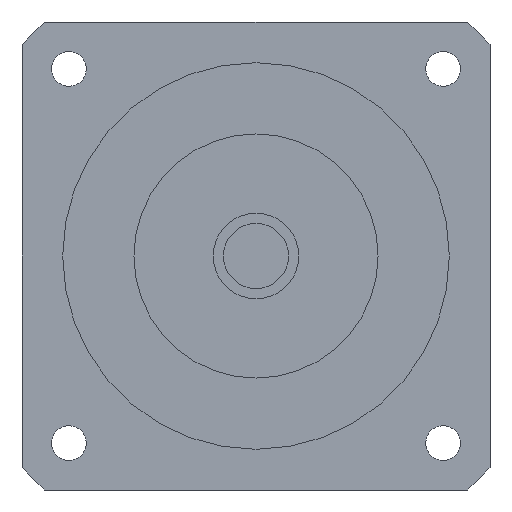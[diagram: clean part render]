
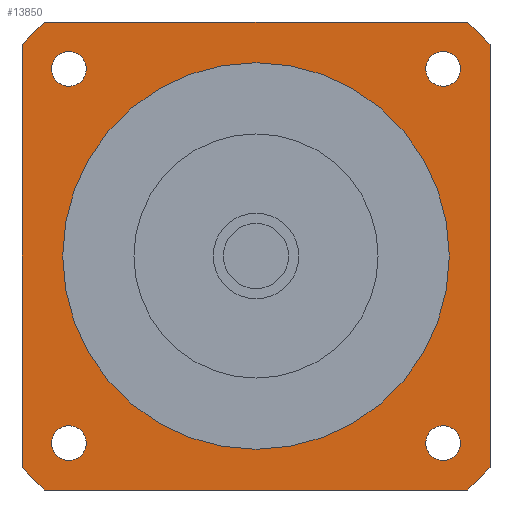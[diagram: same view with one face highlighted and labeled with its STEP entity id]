
A CAD part, left-side view. The second image highlights one B-rep face of the part: STEP entity #13850.
In plain terms, the highlighted planar face has unit normal (-1, 0, 0) as drawn and (0, 0, -1) by its records, which use the part's own axes.
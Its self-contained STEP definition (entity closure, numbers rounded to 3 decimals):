
#11040=CARTESIAN_POINT('',(-51.962,57.5,-47.));
#11050=VERTEX_POINT('',#11040);
#11080=CARTESIAN_POINT('',(-57.5,57.5,-47.));
#11090=DIRECTION('',(1.,0.,0.));
#11100=VECTOR('',#11090,1000.);
#11110=LINE('',#11080,#11100);
#11120=CARTESIAN_POINT('',(51.962,57.5,-47.));
#11130=VERTEX_POINT('',#11120);
#11140=EDGE_CURVE('',#11050,#11130,#11110,.T.);
#11370=CARTESIAN_POINT('',(-57.5,51.962,-47.));
#11380=VERTEX_POINT('',#11370);
#11410=CARTESIAN_POINT('',(0.,0.,-47.
));
#11420=DIRECTION('',(0.,0.,-1.));
#11430=DIRECTION('',(1.,0.,0.));
#11440=AXIS2_PLACEMENT_3D('',#11410,#11420,#11430);
#11450=CIRCLE('',#11440,77.5);
#11460=EDGE_CURVE('',#11380,#11050,#11450,.T.);
#11600=CARTESIAN_POINT('',(-51.962,-57.5,-47.));
#11610=VERTEX_POINT('',#11600);
#11640=CARTESIAN_POINT('',(0.,0.,-47.
));
#11650=DIRECTION('',(0.,0.,-1.));
#11660=DIRECTION('',(1.,0.,0.));
#11670=AXIS2_PLACEMENT_3D('',#11640,#11650,#11660);
#11680=CIRCLE('',#11670,77.5);
#11690=CARTESIAN_POINT('',(-57.5,-51.962,-47.));
#11700=VERTEX_POINT('',#11690);
#11710=EDGE_CURVE('',#11610,#11700,#11680,.T.);
#11920=CARTESIAN_POINT('',(51.962,-57.5,-47.));
#11930=VERTEX_POINT('',#11920);
#11960=CARTESIAN_POINT('',(57.5,-57.5,-47.));
#11970=DIRECTION('',(-1.,0.,0.));
#11980=VECTOR('',#11970,1000.);
#11990=LINE('',#11960,#11980);
#12000=EDGE_CURVE('',#11930,#11610,#11990,.T.);
#12130=CARTESIAN_POINT('',(-57.5,-57.5,-47.));
#12140=DIRECTION('',(0.,1.,0.));
#12150=VECTOR('',#12140,1000.);
#12160=LINE('',#12130,#12150);
#12170=EDGE_CURVE('',#11700,#11380,#12160,.T.);
#12300=CARTESIAN_POINT('',(0.,0.,-47.
));
#12310=DIRECTION('',(0.,0.,-1.));
#12320=DIRECTION('',(1.,0.,0.));
#12330=AXIS2_PLACEMENT_3D('',#12300,#12310,#12320);
#12340=CIRCLE('',#12330,77.5);
#12350=CARTESIAN_POINT('',(57.5,51.962,-47.));
#12360=VERTEX_POINT('',#12350);
#12370=EDGE_CURVE('',#11130,#12360,#12340,.T.);
#12580=CARTESIAN_POINT('',(57.5,-51.962,-47.));
#12590=VERTEX_POINT('',#12580);
#12620=CARTESIAN_POINT('',(0.,0.,-47.
));
#12630=DIRECTION('',(0.,0.,-1.));
#12640=DIRECTION('',(1.,0.,0.));
#12650=AXIS2_PLACEMENT_3D('',#12620,#12630,#12640);
#12660=CIRCLE('',#12650,77.5);
#12670=EDGE_CURVE('',#12590,#11930,#12660,.T.);
#12800=CARTESIAN_POINT('',(57.5,57.5,-47.));
#12810=DIRECTION('',(0.,-1.,0.));
#12820=VECTOR('',#12810,1000.);
#12830=LINE('',#12800,#12820);
#12840=EDGE_CURVE('',#12360,#12590,#12830,.T.);
#12910=CARTESIAN_POINT('',(57.5,57.5,-47.));
#12920=DIRECTION('',(0.,0.,-1.));
#12930=DIRECTION('',(1.,0.,0.));
#12940=AXIS2_PLACEMENT_3D('',#12910,#12920,#12930);
#12950=PLANE('',#12940);
#12960=CARTESIAN_POINT('',(-45.962,-45.962,-47.));
#12970=DIRECTION('',(0.,0.,-1.));
#12980=DIRECTION('',(0.,-1.,0.));
#12990=AXIS2_PLACEMENT_3D('',#12960,#12970,#12980);
#13000=CIRCLE('',#12990,4.25);
#13010=CARTESIAN_POINT('',(-45.962,-50.212,-47.));
#13020=VERTEX_POINT('',#13010);
#13030=CARTESIAN_POINT('',(-45.962,-41.712,-47.));
#13040=VERTEX_POINT('',#13030);
#13050=EDGE_CURVE('',#13020,#13040,#13000,.T.);
#13060=ORIENTED_EDGE('',*,*,#13050,.F.);
#13070=EDGE_CURVE('',#13040,#13020,#13000,.T.);
#13080=ORIENTED_EDGE('',*,*,#13070,.F.);
#13090=EDGE_LOOP('',(#13080,#13060));
#13100=FACE_BOUND('',#13090,.T.);
#13110=CARTESIAN_POINT('',(-45.962,45.962,-47.));
#13120=DIRECTION('',(0.,0.,-1.));
#13130=DIRECTION('',(-1.,0.,0.));
#13140=AXIS2_PLACEMENT_3D('',#13110,#13120,#13130);
#13150=CIRCLE('',#13140,4.25);
#13160=CARTESIAN_POINT('',(-50.212,45.962,-47.));
#13170=VERTEX_POINT('',#13160);
#13180=CARTESIAN_POINT('',(-41.712,45.962,-47.));
#13190=VERTEX_POINT('',#13180);
#13200=EDGE_CURVE('',#13170,#13190,#13150,.T.);
#13210=ORIENTED_EDGE('',*,*,#13200,.F.);
#13220=EDGE_CURVE('',#13190,#13170,#13150,.T.);
#13230=ORIENTED_EDGE('',*,*,#13220,.F.);
#13240=EDGE_LOOP('',(#13230,#13210));
#13250=FACE_BOUND('',#13240,.T.);
#13260=CARTESIAN_POINT('',(45.962,45.962,-47.));
#13270=DIRECTION('',(0.,0.,-1.));
#13280=DIRECTION('',(0.,1.,0.));
#13290=AXIS2_PLACEMENT_3D('',#13260,#13270,#13280);
#13300=CIRCLE('',#13290,4.25);
#13310=CARTESIAN_POINT('',(45.962,50.212,-47.));
#13320=VERTEX_POINT('',#13310);
#13330=CARTESIAN_POINT('',(45.962,41.712,-47.));
#13340=VERTEX_POINT('',#13330);
#13350=EDGE_CURVE('',#13320,#13340,#13300,.T.);
#13360=ORIENTED_EDGE('',*,*,#13350,.F.);
#13370=EDGE_CURVE('',#13340,#13320,#13300,.T.);
#13380=ORIENTED_EDGE('',*,*,#13370,.F.);
#13390=EDGE_LOOP('',(#13380,#13360));
#13400=FACE_BOUND('',#13390,.T.);
#13410=CARTESIAN_POINT('',(0.,0.,
-47.));
#13420=DIRECTION('',(0.,0.,1.));
#13430=DIRECTION('',(0.,1.,0.));
#13440=AXIS2_PLACEMENT_3D('',#13410,#13420,#13430);
#13450=CIRCLE('',#13440,47.5);
#13460=CARTESIAN_POINT('',(-47.5,0.,-47.));
#13470=VERTEX_POINT('',#13460);
#13480=CARTESIAN_POINT('',(47.5,0.,-47.));
#13490=VERTEX_POINT('',#13480);
#13500=EDGE_CURVE('',#13470,#13490,#13450,.T.);
#13510=ORIENTED_EDGE('',*,*,#13500,.T.);
#13520=CARTESIAN_POINT('',(0.,47.5,-47.));
#13530=VERTEX_POINT('',#13520);
#13540=EDGE_CURVE('',#13530,#13470,#13450,.T.);
#13550=ORIENTED_EDGE('',*,*,#13540,.T.);
#13560=EDGE_CURVE('',#13490,#13530,#13450,.T.);
#13570=ORIENTED_EDGE('',*,*,#13560,.T.);
#13580=EDGE_LOOP('',(#13570,#13550,#13510));
#13590=FACE_BOUND('',#13580,.T.);
#13600=ORIENTED_EDGE('',*,*,#11140,.T.);
#13610=ORIENTED_EDGE('',*,*,#11460,.T.);
#13620=ORIENTED_EDGE('',*,*,#12170,.T.);
#13630=ORIENTED_EDGE('',*,*,#11710,.T.);
#13640=ORIENTED_EDGE('',*,*,#12000,.T.);
#13650=ORIENTED_EDGE('',*,*,#12670,.T.);
#13660=ORIENTED_EDGE('',*,*,#12840,.T.);
#13670=ORIENTED_EDGE('',*,*,#12370,.T.);
#13680=EDGE_LOOP('',(#13670,#13660,#13650,#13640,#13630,#13620,#13610,
#13600));
#13690=FACE_OUTER_BOUND('',#13680,.T.);
#13700=CARTESIAN_POINT('',(45.962,-45.962,-47.));
#13710=DIRECTION('',(0.,0.,-1.));
#13720=DIRECTION('',(1.,0.,0.));
#13730=AXIS2_PLACEMENT_3D('',#13700,#13710,#13720);
#13740=CIRCLE('',#13730,4.25);
#13750=CARTESIAN_POINT('',(50.212,-45.962,-47.));
#13760=VERTEX_POINT('',#13750);
#13770=CARTESIAN_POINT('',(41.712,-45.962,-47.));
#13780=VERTEX_POINT('',#13770);
#13790=EDGE_CURVE('',#13760,#13780,#13740,.T.);
#13800=ORIENTED_EDGE('',*,*,#13790,.F.);
#13810=EDGE_CURVE('',#13780,#13760,#13740,.T.);
#13820=ORIENTED_EDGE('',*,*,#13810,.F.);
#13830=EDGE_LOOP('',(#13820,#13800));
#13840=FACE_BOUND('',#13830,.T.);
#13850=ADVANCED_FACE('',(#13100,#13250,#13400,#13590,#13690,#13840),
#12950,.T.);
